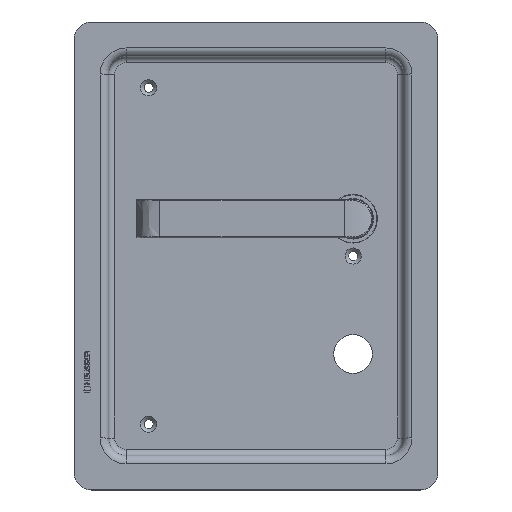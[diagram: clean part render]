
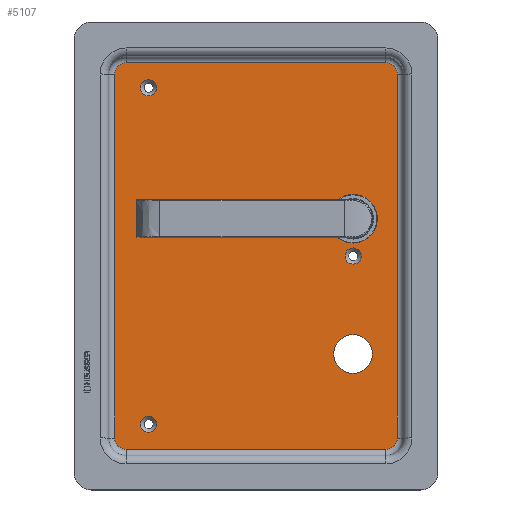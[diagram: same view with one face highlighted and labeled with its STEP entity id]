
A CAD part, top view. The second image highlights one B-rep face of the part: STEP entity #5107.
In plain terms, the highlighted planar face has unit normal (0, 0, 1).
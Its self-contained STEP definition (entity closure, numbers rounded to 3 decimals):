
#335=FACE_BOUND('',#718,.T.);
#336=FACE_BOUND('',#719,.T.);
#337=FACE_BOUND('',#720,.T.);
#338=FACE_BOUND('',#721,.T.);
#339=FACE_BOUND('',#722,.T.);
#414=FACE_OUTER_BOUND('',#717,.T.);
#717=EDGE_LOOP('',(#3245,#3246,#3247,#3248,#3249,#3250,#3251,#3252));
#718=EDGE_LOOP('',(#3253));
#719=EDGE_LOOP('',(#3254));
#720=EDGE_LOOP('',(#3255));
#721=EDGE_LOOP('',(#3256));
#722=EDGE_LOOP('',(#3257));
#1099=CIRCLE('',#5421,6.5);
#1100=CIRCLE('',#5422,6.5);
#1101=CIRCLE('',#5423,6.5);
#1102=CIRCLE('',#5424,6.5);
#1103=CIRCLE('',#5425,4.65);
#1104=CIRCLE('',#5426,4.65);
#1105=CIRCLE('',#5427,4.65);
#1106=CIRCLE('',#5428,11.15);
#1107=CIRCLE('',#5429,14.);
#1273=LINE('',#7117,#1665);
#1274=LINE('',#7121,#1666);
#1275=LINE('',#7125,#1667);
#1276=LINE('',#7129,#1668);
#1665=VECTOR('',#5857,10.);
#1666=VECTOR('',#5860,10.);
#1667=VECTOR('',#5863,10.);
#1668=VECTOR('',#5866,10.);
#2057=VERTEX_POINT('',#7115);
#2058=VERTEX_POINT('',#7116);
#2059=VERTEX_POINT('',#7118);
#2060=VERTEX_POINT('',#7120);
#2061=VERTEX_POINT('',#7122);
#2062=VERTEX_POINT('',#7124);
#2063=VERTEX_POINT('',#7126);
#2064=VERTEX_POINT('',#7128);
#2065=VERTEX_POINT('',#7131);
#2066=VERTEX_POINT('',#7133);
#2067=VERTEX_POINT('',#7135);
#2068=VERTEX_POINT('',#7137);
#2069=VERTEX_POINT('',#7139);
#2531=EDGE_CURVE('',#2057,#2058,#1273,.T.);
#2532=EDGE_CURVE('',#2058,#2059,#1099,.T.);
#2533=EDGE_CURVE('',#2059,#2060,#1274,.T.);
#2534=EDGE_CURVE('',#2060,#2061,#1100,.T.);
#2535=EDGE_CURVE('',#2061,#2062,#1275,.T.);
#2536=EDGE_CURVE('',#2062,#2063,#1101,.T.);
#2537=EDGE_CURVE('',#2063,#2064,#1276,.T.);
#2538=EDGE_CURVE('',#2064,#2057,#1102,.T.);
#2539=EDGE_CURVE('',#2065,#2065,#1103,.T.);
#2540=EDGE_CURVE('',#2066,#2066,#1104,.T.);
#2541=EDGE_CURVE('',#2067,#2067,#1105,.T.);
#2542=EDGE_CURVE('',#2068,#2068,#1106,.T.);
#2543=EDGE_CURVE('',#2069,#2069,#1107,.T.);
#3245=ORIENTED_EDGE('',*,*,#2531,.T.);
#3246=ORIENTED_EDGE('',*,*,#2532,.T.);
#3247=ORIENTED_EDGE('',*,*,#2533,.T.);
#3248=ORIENTED_EDGE('',*,*,#2534,.T.);
#3249=ORIENTED_EDGE('',*,*,#2535,.T.);
#3250=ORIENTED_EDGE('',*,*,#2536,.T.);
#3251=ORIENTED_EDGE('',*,*,#2537,.T.);
#3252=ORIENTED_EDGE('',*,*,#2538,.T.);
#3253=ORIENTED_EDGE('',*,*,#2539,.F.);
#3254=ORIENTED_EDGE('',*,*,#2540,.F.);
#3255=ORIENTED_EDGE('',*,*,#2541,.F.);
#3256=ORIENTED_EDGE('',*,*,#2542,.T.);
#3257=ORIENTED_EDGE('',*,*,#2543,.T.);
#4673=PLANE('',#5420);
#5107=ADVANCED_FACE('',(#414,#335,#336,#337,#338,#339),#4673,.F.);
#5420=AXIS2_PLACEMENT_3D('',#7114,#5855,#5856);
#5421=AXIS2_PLACEMENT_3D('',#7119,#5858,#5859);
#5422=AXIS2_PLACEMENT_3D('',#7123,#5861,#5862);
#5423=AXIS2_PLACEMENT_3D('',#7127,#5864,#5865);
#5424=AXIS2_PLACEMENT_3D('',#7130,#5867,#5868);
#5425=AXIS2_PLACEMENT_3D('',#7132,#5869,#5870);
#5426=AXIS2_PLACEMENT_3D('',#7134,#5871,#5872);
#5427=AXIS2_PLACEMENT_3D('',#7136,#5873,#5874);
#5428=AXIS2_PLACEMENT_3D('',#7138,#5875,#5876);
#5429=AXIS2_PLACEMENT_3D('',#7140,#5877,#5878);
#5855=DIRECTION('center_axis',(0.,0.,-1.));
#5856=DIRECTION('ref_axis',(-1.,0.,0.));
#5857=DIRECTION('',(1.,0.,0.));
#5858=DIRECTION('center_axis',(0.,0.,1.));
#5859=DIRECTION('ref_axis',(0.707,-0.707,0.));
#5860=DIRECTION('',(0.,1.,0.));
#5861=DIRECTION('center_axis',(0.,0.,1.));
#5862=DIRECTION('ref_axis',(0.707,0.707,0.));
#5863=DIRECTION('',(-1.,0.,0.));
#5864=DIRECTION('center_axis',(0.,0.,1.));
#5865=DIRECTION('ref_axis',(-0.707,0.707,0.));
#5866=DIRECTION('',(0.,-1.,0.));
#5867=DIRECTION('center_axis',(0.,0.,1.));
#5868=DIRECTION('ref_axis',(-0.707,-0.707,0.));
#5869=DIRECTION('center_axis',(0.,0.,1.));
#5870=DIRECTION('ref_axis',(-1.,0.,0.));
#5871=DIRECTION('center_axis',(0.,0.,1.));
#5872=DIRECTION('ref_axis',(-1.,0.,0.));
#5873=DIRECTION('center_axis',(0.,0.,1.));
#5874=DIRECTION('ref_axis',(-1.,0.,0.));
#5875=DIRECTION('center_axis',(0.,0.,-1.));
#5876=DIRECTION('ref_axis',(-1.,0.,0.));
#5877=DIRECTION('center_axis',(0.,0.,
-1.));
#5878=DIRECTION('ref_axis',(1.,0.,0.));
#7114=CARTESIAN_POINT('Origin',(314.459,163.666,29.426));
#7115=CARTESIAN_POINT('',(239.459,52.166,29.426));
#7116=CARTESIAN_POINT('',(389.459,52.166,29.426));
#7117=CARTESIAN_POINT('',(276.959,52.166,29.426));
#7118=CARTESIAN_POINT('',(395.959,58.666,29.426));
#7119=CARTESIAN_POINT('Origin',(389.459,58.666,29.426));
#7120=CARTESIAN_POINT('',(395.959,268.666,29.426));
#7121=CARTESIAN_POINT('',(395.959,111.166,29.426));
#7122=CARTESIAN_POINT('',(389.459,275.166,29.426));
#7123=CARTESIAN_POINT('Origin',(389.459,268.666,29.426));
#7124=CARTESIAN_POINT('',(239.459,275.166,29.426));
#7125=CARTESIAN_POINT('',(351.959,275.166,29.426));
#7126=CARTESIAN_POINT('',(232.959,268.666,29.426));
#7127=CARTESIAN_POINT('Origin',(239.459,268.666,29.426));
#7128=CARTESIAN_POINT('',(232.959,58.666,29.426));
#7129=CARTESIAN_POINT('',(232.959,216.166,29.426));
#7130=CARTESIAN_POINT('Origin',(239.459,58.666,29.426));
#7131=CARTESIAN_POINT('',(257.109,260.666,29.426));
#7132=CARTESIAN_POINT('Origin',(252.459,260.666,29.426));
#7133=CARTESIAN_POINT('',(375.109,163.666,29.426));
#7134=CARTESIAN_POINT('Origin',(370.459,163.666,29.426));
#7135=CARTESIAN_POINT('',(257.109,66.666,29.426));
#7136=CARTESIAN_POINT('Origin',(252.459,66.666,29.426));
#7137=CARTESIAN_POINT('',(381.609,107.166,29.426));
#7138=CARTESIAN_POINT('Origin',(370.459,107.166,29.426));
#7139=CARTESIAN_POINT('',(356.459,185.166,29.426));
#7140=CARTESIAN_POINT('Origin',(370.459,185.166,29.426));
